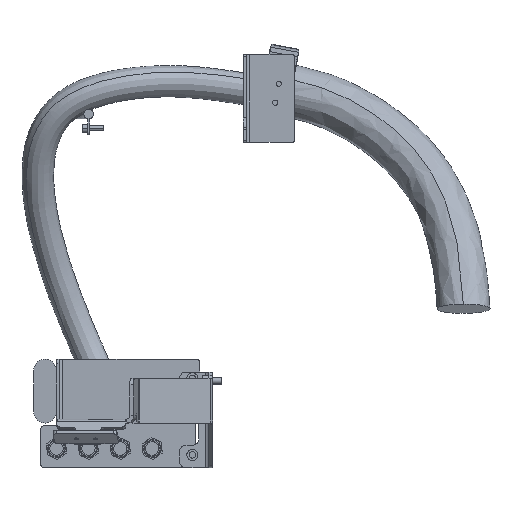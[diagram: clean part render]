
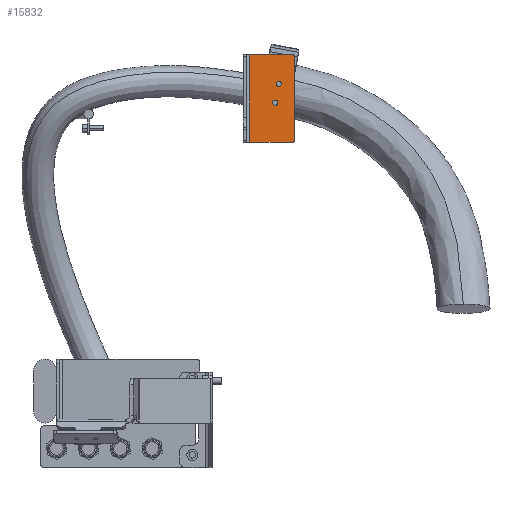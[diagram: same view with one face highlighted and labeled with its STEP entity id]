
A CAD part, left-side view. The second image highlights one B-rep face of the part: STEP entity #15832.
In plain terms, the highlighted planar face has unit normal (-1, 0, 0).
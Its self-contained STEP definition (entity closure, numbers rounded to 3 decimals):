
#483 = DIRECTION ( 'NONE',  ( 0., 1., 0. ) ) ;
#2730 = DIRECTION ( 'NONE',  ( -1., 0., 0. ) ) ;
#3428 = AXIS2_PLACEMENT_3D ( 'NONE', #18368, #67068, #8185 ) ;
#4137 = VECTOR ( 'NONE', #54875, 1000. ) ;
#5377 = CIRCLE ( 'NONE', #66146, 4. ) ;
#5634 = EDGE_CURVE ( 'NONE', #37015, #11552, #59294, .T. ) ;
#7221 = VERTEX_POINT ( 'NONE', #69407 ) ;
#8185 = DIRECTION ( 'NONE',  ( 0., 1., 0. ) ) ;
#10096 = FACE_BOUND ( 'NONE', #47901, .T. ) ;
#10966 = DIRECTION ( 'NONE',  ( 0., 1., 0. ) ) ;
#11202 = AXIS2_PLACEMENT_3D ( 'NONE', #14656, #20637, #14985 ) ;
#11552 = VERTEX_POINT ( 'NONE', #42037 ) ;
#12940 = ORIENTED_EDGE ( 'NONE', *, *, #30775, .T. ) ;
#13569 = DIRECTION ( 'NONE',  ( 0., 1., 0. ) ) ;
#13973 = CIRCLE ( 'NONE', #17324, 4. ) ;
#14656 = CARTESIAN_POINT ( 'NONE',  ( 529., -135., 2351. ) ) ;
#14671 = CARTESIAN_POINT ( 'NONE',  ( 529., -140., 2213. ) ) ;
#14985 = DIRECTION ( 'NONE',  ( 0., 1., 0. ) ) ;
#15832 = ADVANCED_FACE ( 'NONE', ( #10096, #53479, #52784 ), #36230, .F. ) ;
#16232 = DIRECTION ( 'NONE',  ( 0., 1., 0. ) ) ;
#16379 = DIRECTION ( 'NONE',  ( 0., -1., 0. ) ) ;
#17324 = AXIS2_PLACEMENT_3D ( 'NONE', #54367, #21884, #483 ) ;
#17661 = ORIENTED_EDGE ( 'NONE', *, *, #43671, .T. ) ;
#18368 = CARTESIAN_POINT ( 'NONE',  ( 529., -207., 2348. ) ) ;
#19159 = DIRECTION ( 'NONE',  ( 1., 0., 0. ) ) ;
#19823 = EDGE_CURVE ( 'NONE', #42915, #54182, #60136, .T. ) ;
#19907 = DIRECTION ( 'NONE',  ( 1., 0., 0. ) ) ;
#20637 = DIRECTION ( 'NONE',  ( 1., 0., 0. ) ) ;
#21884 = DIRECTION ( 'NONE',  ( 1., 0., 0. ) ) ;
#22464 = CIRCLE ( 'NONE', #3428, 3. ) ;
#23270 = CARTESIAN_POINT ( 'NONE',  ( 529., -184., 2275.5 ) ) ;
#23580 = CIRCLE ( 'NONE', #26980, 4. ) ;
#23749 = CARTESIAN_POINT ( 'NONE',  ( 529., -207., 2213. ) ) ;
#23760 = CARTESIAN_POINT ( 'NONE',  ( 529., -185.5, 2304.992 ) ) ;
#24464 = VERTEX_POINT ( 'NONE', #39977 ) ;
#24646 = AXIS2_PLACEMENT_3D ( 'NONE', #40729, #2730, #13569 ) ;
#25003 = EDGE_LOOP ( 'NONE', ( #12940, #50644 ) ) ;
#25567 = CIRCLE ( 'NONE', #34639, 4. ) ;
#26980 = AXIS2_PLACEMENT_3D ( 'NONE', #23760, #19159, #45296 ) ;
#28420 = VERTEX_POINT ( 'NONE', #52355 ) ;
#28927 = EDGE_CURVE ( 'NONE', #7221, #49952, #5377, .T. ) ;
#29797 = EDGE_CURVE ( 'NONE', #28420, #11552, #63021, .T. ) ;
#29807 = EDGE_CURVE ( 'NONE', #28420, #50307, #43594, .T. ) ;
#29832 = DIRECTION ( 'NONE',  ( 0., 1., 0. ) ) ;
#29936 = CARTESIAN_POINT ( 'NONE',  ( 529., -207., 2351. ) ) ;
#30224 = ORIENTED_EDGE ( 'NONE', *, *, #29797, .F. ) ;
#30775 = EDGE_CURVE ( 'NONE', #49952, #7221, #23580, .T. ) ;
#31297 = EDGE_CURVE ( 'NONE', #54182, #37015, #22464, .T. ) ;
#32328 = CARTESIAN_POINT ( 'NONE',  ( 529., -210., 2351. ) ) ;
#32872 = CARTESIAN_POINT ( 'NONE',  ( 529., -135., 2351. ) ) ;
#34639 = AXIS2_PLACEMENT_3D ( 'NONE', #68268, #19907, #29832 ) ;
#36230 = PLANE ( 'NONE',  #11202 ) ;
#36242 = DIRECTION ( 'NONE',  ( 0., 0., 1. ) ) ;
#36344 = ORIENTED_EDGE ( 'NONE', *, *, #49630, .T. ) ;
#37015 = VERTEX_POINT ( 'NONE', #29936 ) ;
#37261 = CARTESIAN_POINT ( 'NONE',  ( 529., -135., 2213. ) ) ;
#38807 = DIRECTION ( 'NONE',  ( 1., 0., 0. ) ) ;
#39977 = CARTESIAN_POINT ( 'NONE',  ( 529., -176., 2275.5 ) ) ;
#40729 = CARTESIAN_POINT ( 'NONE',  ( 529., -207., 2216. ) ) ;
#42037 = CARTESIAN_POINT ( 'NONE',  ( 529., -140., 2351. ) ) ;
#42126 = ORIENTED_EDGE ( 'NONE', *, *, #19823, .T. ) ;
#42915 = VERTEX_POINT ( 'NONE', #59711 ) ;
#43594 = LINE ( 'NONE', #37261, #50501 ) ;
#43671 = EDGE_CURVE ( 'NONE', #24464, #61139, #13973, .T. ) ;
#45296 = DIRECTION ( 'NONE',  ( 0., 1., 0. ) ) ;
#47901 = EDGE_LOOP ( 'NONE', ( #17661, #36344 ) ) ;
#48151 = CARTESIAN_POINT ( 'NONE',  ( 529., -181.5, 2304.992 ) ) ;
#49630 = EDGE_CURVE ( 'NONE', #61139, #24464, #25567, .T. ) ;
#49952 = VERTEX_POINT ( 'NONE', #48151 ) ;
#50307 = VERTEX_POINT ( 'NONE', #23749 ) ;
#50501 = VECTOR ( 'NONE', #16379, 1000. ) ;
#50574 = ORIENTED_EDGE ( 'NONE', *, *, #69134, .T. ) ;
#50644 = ORIENTED_EDGE ( 'NONE', *, *, #28927, .T. ) ;
#51364 = VECTOR ( 'NONE', #16232, 1000. ) ;
#51687 = CIRCLE ( 'NONE', #24646, 3. ) ;
#52355 = CARTESIAN_POINT ( 'NONE',  ( 529., -140., 2213. ) ) ;
#52784 = FACE_OUTER_BOUND ( 'NONE', #66428, .T. ) ;
#53479 = FACE_BOUND ( 'NONE', #25003, .T. ) ;
#54182 = VERTEX_POINT ( 'NONE', #68251 ) ;
#54367 = CARTESIAN_POINT ( 'NONE',  ( 529., -180., 2275.5 ) ) ;
#54875 = DIRECTION ( 'NONE',  ( 0., 0., 1. ) ) ;
#58921 = CARTESIAN_POINT ( 'NONE',  ( 529., -185.5, 2304.992 ) ) ;
#59294 = LINE ( 'NONE', #32872, #51364 ) ;
#59711 = CARTESIAN_POINT ( 'NONE',  ( 529., -210., 2216. ) ) ;
#60136 = LINE ( 'NONE', #32328, #4137 ) ;
#61109 = ORIENTED_EDGE ( 'NONE', *, *, #5634, .T. ) ;
#61139 = VERTEX_POINT ( 'NONE', #23270 ) ;
#62875 = VECTOR ( 'NONE', #36242, 1000. ) ;
#63021 = LINE ( 'NONE', #14671, #62875 ) ;
#66146 = AXIS2_PLACEMENT_3D ( 'NONE', #58921, #38807, #10966 ) ;
#66428 = EDGE_LOOP ( 'NONE', ( #42126, #66451, #61109, #30224, #68058, #50574 ) ) ;
#66451 = ORIENTED_EDGE ( 'NONE', *, *, #31297, .T. ) ;
#67068 = DIRECTION ( 'NONE',  ( -1., 0., 0. ) ) ;
#68058 = ORIENTED_EDGE ( 'NONE', *, *, #29807, .T. ) ;
#68251 = CARTESIAN_POINT ( 'NONE',  ( 529., -210., 2348. ) ) ;
#68268 = CARTESIAN_POINT ( 'NONE',  ( 529., -180., 2275.5 ) ) ;
#69134 = EDGE_CURVE ( 'NONE', #50307, #42915, #51687, .T. ) ;
#69407 = CARTESIAN_POINT ( 'NONE',  ( 529., -189.5, 2304.992 ) ) ;
